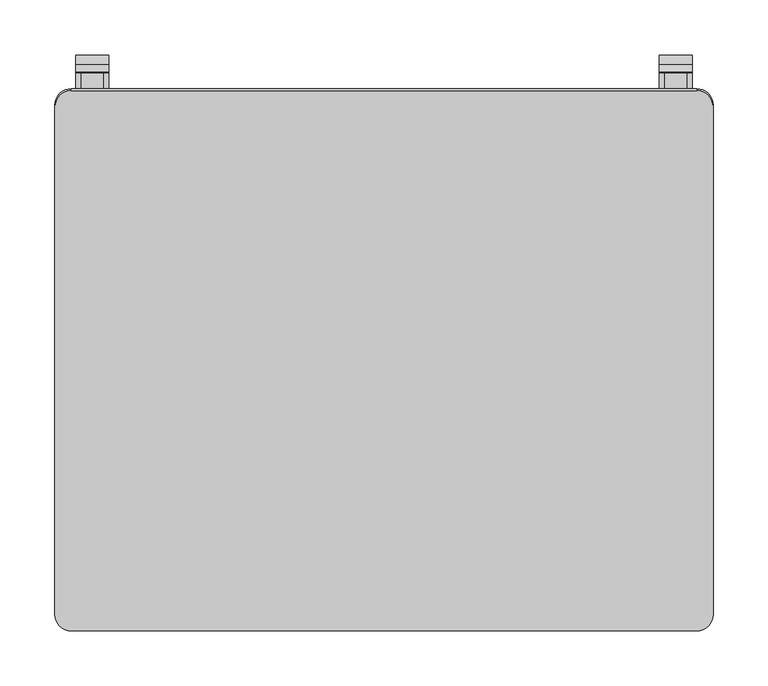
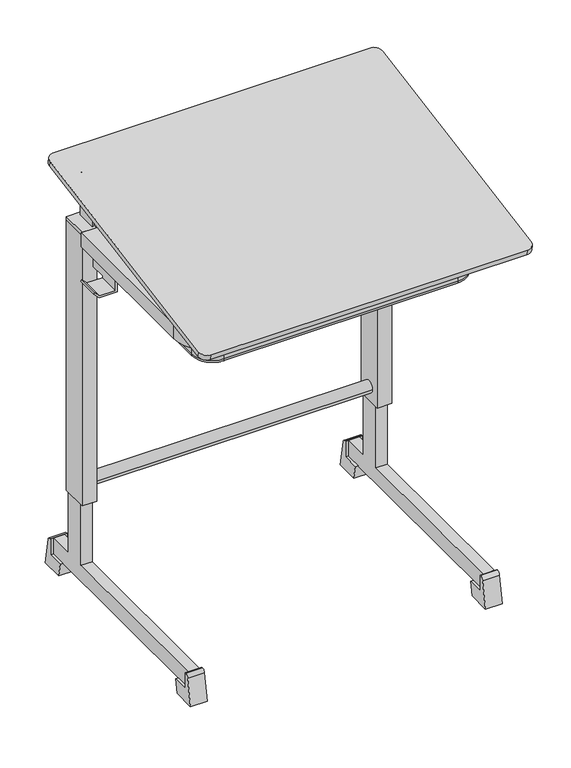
"""IFC4 building model written with IfcOpenShell, lengths in millimetres: furniture geometry, Trivia table : 60 tiltable with drawer."""

import ifcopenshell
import ifcopenshell.guid

model = None  # the IFC model being written
_history = None  # IfcOwnerHistory: only IFC2X3 demands one
_inside = {}  # id of a spatial element -> (the spatial element, [elements in it])
_under = {}  # id of a project, library or spatial element -> (it, [spatial elements below it])
_declared = {}  # id of a project -> (the project, [libraries it declares])
_typed = {}  # id of a type object -> (the type object, [elements of that type])
_made_of = {}  # id of a material, layer set ... -> (it, [elements and type objects made of it])


def new_model(schema):
    """Start an empty IFC model of exactly this schema.

    Asked for "IFC4X3", IfcOpenShell would pick the latest addendum, in which some entities
    have other attributes; the version numbers below select the first issue.
    IFC2X3 requires an IfcOwnerHistory on every rooted entity: one is made here for all.
    """
    global model, _history
    if schema == "IFC4X3":
        model = ifcopenshell.file(schema_version=(4, 3, 0, 0))
    else:
        model = ifcopenshell.file(schema=schema)
    _inside.clear()
    _under.clear()
    _declared.clear()
    _typed.clear()
    _made_of.clear()
    _history = None
    if model.schema == "IFC2X3":
        org = make("IfcOrganization", Name="unknown")
        user = make(
            "IfcPersonAndOrganization",
            ThePerson=make("IfcPerson", FamilyName="unknown"),
            TheOrganization=org,
        )
        app = make(
            "IfcApplication",
            ApplicationDeveloper=org,
            Version="unknown",
            ApplicationFullName="unknown",
            ApplicationIdentifier="unknown",
        )
        _history = make(
            "IfcOwnerHistory",
            OwningUser=user,
            OwningApplication=app,
            ChangeAction="ADDED",
            CreationDate=0,
        )
    return model


def make(cls, **values):
    """One entity of the class cls with the attributes given. An attribute that is None is left unset."""
    return model.create_entity(
        cls, **{name: value for name, value in values.items() if value is not None}
    )


def rooted(cls, **values):
    """An entity with a GlobalId (a new one), such as an element, a storey or a relation."""
    return make(cls, GlobalId=ifcopenshell.guid.new(), OwnerHistory=_history, **values)


def si_unit(unit_type, name, prefix=None):
    """IfcSIUnit, for example si_unit("LENGTHUNIT", "METRE", prefix="MILLI")."""
    return make("IfcSIUnit", UnitType=unit_type, Prefix=prefix, Name=name)


def assignment(units):
    """IfcUnitAssignment: the units of a project."""
    return None if units is None else make("IfcUnitAssignment", Units=units)


def point(xyz):
    """IfcCartesianPoint."""
    return None if xyz is None else make("IfcCartesianPoint", Coordinates=xyz)


def direction(xyz):
    """IfcDirection."""
    return None if xyz is None else make("IfcDirection", DirectionRatios=xyz)


def frame(location, z_axis=None, x_axis=None):
    """IfcAxis2Placement3D, a coordinate frame: its origin and axes. An axis left out is left unset."""
    return make(
        "IfcAxis2Placement3D",
        Location=point(location),
        Axis=direction(z_axis),
        RefDirection=direction(x_axis),
    )


def frame_2d(location, x_axis=None):
    """IfcAxis2Placement2D, a coordinate frame in the plane: its origin and x axis."""
    return make(
        "IfcAxis2Placement2D", Location=point(location), RefDirection=direction(x_axis)
    )


def origin():
    """The frame at (0, 0, 0) with its axes left unset."""
    return frame((0.0, 0.0, 0.0))


def place(relative_to, where):
    """IfcLocalPlacement: puts the frame where relative to a parent placement (None: the world)."""
    return make(
        "IfcLocalPlacement", PlacementRelTo=relative_to, RelativePlacement=where
    )


def context(
    kind, dimensions, precision=None, world=None, true_north=None, identifier=None
):
    """IfcGeometricRepresentationContext, for example the 3D "Model" context."""
    return make(
        "IfcGeometricRepresentationContext",
        ContextIdentifier=identifier,
        ContextType=kind,
        CoordinateSpaceDimension=dimensions,
        Precision=precision,
        WorldCoordinateSystem=world,
        TrueNorth=true_north,
    )


def project(units=None, contexts=None):
    """IfcProject with its units and contexts."""
    return rooted(
        "IfcProject",
        Name="project",
        RepresentationContexts=contexts,
        UnitsInContext=assignment(units),
    )


def spatial(cls, under=None, at=None, **own):
    """A site, building, storey or space (cls), placed at a placement, below another one or the project."""
    s = rooted(cls, ObjectPlacement=at, **own)
    if under is not None:
        _under.setdefault(under.id(), (under, []))[1].append(s)
    return s


def polyline(points):
    """IfcPolyline through the points."""
    return make("IfcPolyline", Points=[point(p) for p in points])


def circle_curve(where, radius):
    """IfcCircle in the frame where."""
    return make("IfcCircle", Position=where, Radius=radius)


def ellipse_curve(where, semi_axis1, semi_axis2):
    """IfcEllipse in the frame where."""
    return make(
        "IfcEllipse", Position=where, SemiAxis1=semi_axis1, SemiAxis2=semi_axis2
    )


def trimmed(basis, trim1, trim2, sense, master):
    """IfcTrimmedCurve: the piece of a basis curve between two trims."""
    return make(
        "IfcTrimmedCurve",
        BasisCurve=basis,
        Trim1=trim1,
        Trim2=trim2,
        SenseAgreement=sense,
        MasterRepresentation=master,
    )


def segment(curve, same_sense, transition):
    """IfcCompositeCurveSegment."""
    return make(
        "IfcCompositeCurveSegment",
        Transition=transition,
        SameSense=same_sense,
        ParentCurve=curve,
    )


def composite_curve(segments, self_intersect=None):
    """IfcCompositeCurve: segments joined end to end."""
    return make("IfcCompositeCurve", Segments=segments, SelfIntersect=self_intersect)


def outline(outer, holes=None, kind="AREA"):
    """IfcArbitraryClosedProfileDef: a profile drawn as a closed curve; with holes, ...WithVoids."""
    if holes is None:
        return make("IfcArbitraryClosedProfileDef", ProfileType=kind, OuterCurve=outer)
    return make(
        "IfcArbitraryProfileDefWithVoids",
        ProfileType=kind,
        OuterCurve=outer,
        InnerCurves=holes,
    )


def extrude(swept, where, along, depth):
    """IfcExtrudedAreaSolid: the profile swept, set in the frame where, extruded along a direction by depth."""
    return make(
        "IfcExtrudedAreaSolid",
        SweptArea=swept,
        Position=where,
        ExtrudedDirection=direction(along),
        Depth=depth,
    )


def faces_of(points, faces, orient=None, outer=None):
    """IfcFace entities. A face is a list of loops; a loop is a list of indices into points, from 0.

    orient and outer hold one flag for each loop. By default every Orientation is true, the
    first loop of a face is its IfcFaceOuterBound and the others are IfcFaceBound.
    """
    made = []
    for i, loops in enumerate(faces):
        bounds = []
        for j, loop in enumerate(loops):
            is_outer = j == 0 if outer is None else outer[i][j]
            bounds.append(
                make(
                    "IfcFaceOuterBound" if is_outer else "IfcFaceBound",
                    Bound=make("IfcPolyLoop", Polygon=[points[k] for k in loop]),
                    Orientation=True if orient is None else orient[i][j],
                )
            )
        made.append(make("IfcFace", Bounds=bounds))
    return made


def faceted_brep(points, faces, orient=None, outer=None, voids=None):
    """IfcFacetedBrep: a solid bounded by flat faces; with voids (closed shells), ...WithVoids."""
    shared = [point(p) for p in points]
    hull = make("IfcClosedShell", CfsFaces=faces_of(shared, faces, orient, outer))
    if voids is None:
        return make("IfcFacetedBrep", Outer=hull)
    return make(
        "IfcFacetedBrepWithVoids",
        Outer=hull,
        Voids=[
            make(cls, CfsFaces=faces_of(shared, fs, o, b)) for cls, fs, o, b in voids
        ],
    )


def shape(context_of_items, identifier, shape_type, items):
    """IfcShapeRepresentation: the items that make up one representation, for example the "Body"."""
    return make(
        "IfcShapeRepresentation",
        ContextOfItems=context_of_items,
        RepresentationIdentifier=identifier,
        RepresentationType=shape_type,
        Items=items,
    )


def source(mapping_origin, context_of_items, identifier, shape_type, items):
    """IfcRepresentationMap: a shape defined once, which mapped items show again and again."""
    return make(
        "IfcRepresentationMap",
        MappingOrigin=mapping_origin,
        MappedRepresentation=shape(context_of_items, identifier, shape_type, items),
    )


def transform(
    local_origin,
    x_axis=None,
    y_axis=None,
    z_axis=None,
    scale=None,
    scale2=None,
    scale3=None,
    uniform=True,
):
    """IfcCartesianTransformationOperator3D, or its non-uniform kind. x_axis, y_axis, z_axis: its Axis1, 2, 3."""
    if uniform:
        return make(
            "IfcCartesianTransformationOperator3D",
            Axis1=direction(x_axis),
            Axis2=direction(y_axis),
            LocalOrigin=point(local_origin),
            Scale=scale,
            Axis3=direction(z_axis),
        )
    return make(
        "IfcCartesianTransformationOperator3DnonUniform",
        Axis1=direction(x_axis),
        Axis2=direction(y_axis),
        LocalOrigin=point(local_origin),
        Scale=scale,
        Axis3=direction(z_axis),
        Scale2=scale2,
        Scale3=scale3,
    )


def mapped(mapping_source, mapping_target):
    """IfcMappedItem: shows the shape of a source again, moved by a transform."""
    return make(
        "IfcMappedItem", MappingSource=mapping_source, MappingTarget=mapping_target
    )


def made_of(thing, what):
    """Note that an element or type object is made of a material, layer set ...; save() writes the relation."""
    if what is not None:
        _made_of.setdefault(what.id(), (what, []))[1].append(thing)
    return thing


def element(
    cls,
    number,
    at=None,
    inside=None,
    cuts=None,
    type_object=None,
    material=None,
    context=None,
    identifier="Body",
    shape_type=None,
    held_by="IfcProductDefinitionShape",
    body=None,
    shapes=None,
    **own,
):
    """One element of the class cls, such as IfcWall. Its Tag is "e" and its number.

    at: its placement. inside: the storey or other place that contains it. cuts: it is an
    opening in that element (IfcRelVoidsElement). A single representation is given by context,
    identifier, shape_type and body (its items); several are given by shapes. held_by: the class
    of the entity that holds the representations. save() writes the other relations.
    """
    e = rooted(cls, Tag="e%d" % number, ObjectPlacement=at, **own)
    if body is not None:
        shapes = [shape(context, identifier, shape_type, body)]
    if shapes is not None:
        e.Representation = make(held_by, Representations=shapes)
    if inside is not None:
        _inside.setdefault(inside.id(), (inside, []))[1].append(e)
    if cuts is not None:
        rooted(
            "IfcRelVoidsElement", RelatingBuildingElement=cuts, RelatedOpeningElement=e
        )
    if type_object is not None:
        _typed.setdefault(type_object.id(), (type_object, []))[1].append(e)
    return made_of(e, material)


def aggregate(whole, parts):
    """IfcRelAggregates: a whole, such as a stair, and the parts it consists of."""
    return rooted("IfcRelAggregates", RelatingObject=whole, RelatedObjects=parts)


def save(model, path):
    """Write the relations noted so far, then the file.

    IfcRelAggregates (storeys below a building ...), IfcRelContainedInSpatialStructure (elements
    in a storey), IfcRelDefinesByType, IfcRelAssociatesMaterial and IfcRelDeclares: one each for
    every whole, place, type object, material and project.
    """
    for whole, parts in _under.values():
        aggregate(whole, parts)
    for where, things in _inside.values():
        rooted(
            "IfcRelContainedInSpatialStructure",
            RelatedElements=things,
            RelatingStructure=where,
        )
    for kind, things in _typed.values():
        rooted("IfcRelDefinesByType", RelatedObjects=things, RelatingType=kind)
    for what, things in _made_of.values():
        rooted("IfcRelAssociatesMaterial", RelatedObjects=things, RelatingMaterial=what)
    for by, libraries in _declared.values():
        rooted("IfcRelDeclares", RelatingContext=by, RelatedDefinitions=libraries)
    model.write(path)


def plane_surface(at):
    """IfcPlane: the flat surface through the origin of the frame at, square to its z axis."""
    return make("IfcPlane", Position=at)


def cylinder_surface(at, radius):
    """IfcCylindricalSurface: all points at the distance radius from the z axis of the frame at."""
    return make("IfcCylindricalSurface", Position=at, Radius=radius)


def revolved_surface(curve, axis_point, axis_direction):
    """IfcSurfaceOfRevolution: the curve turned about the line through axis_point along axis_direction."""
    return make(
        "IfcSurfaceOfRevolution",
        SweptCurve=make("IfcArbitraryOpenProfileDef", ProfileType="CURVE", Curve=curve),
        AxisPosition=make("IfcAxis1Placement", Location=point(axis_point), Axis=direction(axis_direction)),
    )


def advanced_brep(points, edges, surfaces, faces):
    """IfcAdvancedBrep: a solid bounded by faces that lie on surfaces and meet in shared edges.

    An edge is (start, end): straight between two places in points (the first is 0);
    or (start, end, curve); or (start, end, curve, False) where it runs against its curve.
    A face is (place in surfaces, loops), or (place, loops, False) where it looks against
    its surface's normal. A loop lists edges by number (the first is 1), with a minus sign
    where the edge is run from its end to its start. The first loop is the outer one.
    """
    corners = [point(p) for p in points]
    vertices = [make("IfcVertexPoint", VertexGeometry=c) for c in corners]
    made = []
    for start, end, *more in edges:
        made.append(
            make(
                "IfcEdgeCurve",
                EdgeStart=vertices[start],
                EdgeEnd=vertices[end],
                EdgeGeometry=more[0] if more else make("IfcPolyline", Points=[corners[start], corners[end]]),
                SameSense=more[1] if len(more) > 1 else True,
            )
        )
    hull = []
    for where, loops, *sense in faces:
        bounds = []
        for j, loop in enumerate(loops):
            ring = [make("IfcOrientedEdge", EdgeElement=made[abs(k) - 1], Orientation=k > 0) for k in loop]
            bounds.append(
                make(
                    "IfcFaceOuterBound" if j == 0 else "IfcFaceBound",
                    Bound=make("IfcEdgeLoop", EdgeList=ring),
                    Orientation=True,
                )
            )
        hull.append(make("IfcAdvancedFace", Bounds=bounds, FaceSurface=surfaces[where], SameSense=sense[0] if sense else True))
    return make("IfcAdvancedBrep", Outer=make("IfcClosedShell", CfsFaces=hull))


def furniture_adbca7c4(model_context):
    return source(origin(), model_context, "Body", "SolidModel", [
        advanced_brep(
        [(-242.1886902, -120.5095927, 696.521797), (-242.1886902, -120.5095927, 628.2965405), (-242.1886902, 129.6420925, 628.2965405), (-242.1886902, 144.6420925, 628.2965405), (-242.1886902, 144.6420925, 668.000493), (-242.1886902, 176.1657584, 668.000493), (-242.1886902, 176.1657584, 690.521797), (-242.1886902, 176.1657584, 696.521797), (-211.0, -151.6982829, 628.2965405), (211.0, -151.6982829, 628.2965405), (242.1886902, -120.5095927, 628.2965405), (242.1886902, 129.6420925, 628.2965405), (242.1886902, 144.6420925, 628.2965405), (242.1886902, -120.5095927, 622.2965405), (211.0, -151.6982829, 622.2965405), (-211.0, -151.6982829, 622.2965405), (-242.1886902, -120.5095927, 622.2965405), (-242.1886902, 129.6420925, 622.2965405), (-242.1886902, 144.6420925, 622.2965405), (242.1886902, 144.6420925, 622.2965405), (242.1886902, 129.6420925, 622.2965405), (-248.1886902, -120.5095927, 628.2965405), (-248.1886902, 150.6420925, 628.2965405), (-248.1886902, -120.5095927, 690.521797), (-248.1886902, 182.1657584, 690.521797), (-248.1886902, 182.1657584, 668.000493), (-248.1886902, 176.1657584, 662.000493), (-248.1886902, 150.6420925, 662.000493), (275.0, -120.5095927, 690.521797), (211.0, -184.5095927, 690.521797), (-211.0, -184.5095927, 690.521797), (-275.0, -120.5095927, 690.521797), (-275.0, 167.0000173, 690.521797), (-253.0, 167.0000173, 690.521797), (-253.0, 211.0000176, 690.521797), (253.0, 211.0000176, 690.521797), (253.0, 167.0000173, 690.521797), (275.0, 167.0000173, 690.521797), (-211.0, -157.6982829, 690.521797), (211.0, -157.6982829, 690.521797), (248.1886902, -120.5095927, 690.521797), (248.1886902, 182.1657584, 690.521797), (-281.0, -120.5095927, 670.0758066), (-281.0, -120.5095927, 696.521797), (-281.0, 167.0000173, 696.521797), (-281.0, 167.0000173, 670.0758066), (-211.0, -190.5095927, 696.521797), (211.0, -190.5095927, 696.521797), (281.0, -120.5095927, 696.521797), (281.0, 167.0000173, 696.521797), (253.0, 167.0000173, 696.521797), (253.0, 211.0000176, 696.521797), (-253.0, 211.0000176, 696.521797), (-253.0, 167.0000173, 696.521797), (242.1886902, -120.5095927, 696.521797), (211.0, -151.6982829, 696.521797), (-211.0, -151.6982829, 696.521797), (242.1886902, 176.1657584, 696.521797), (-211.0, -157.6982829, 628.2965405), (-211.0, -190.5095927, 670.0758066), (211.0, -157.6982829, 628.2965405), (211.0, -190.5095927, 670.0758066), (248.1886902, -120.5095927, 628.2965405), (281.0, -120.5095927, 670.0758066), (242.1886902, 176.1657584, 690.521797), (242.1886902, 176.1657584, 668.000493), (242.1886902, 144.6420925, 668.000493), (248.1886902, 150.6420925, 628.2965405), (248.1886902, 150.6420925, 662.000493), (248.1886902, 176.1657584, 662.000493), (248.1886902, 182.1657584, 668.000493), (281.0, 167.0000173, 670.0758066), (-242.1886902, 182.1657584, 668.000493), (242.1886902, 182.1657584, 668.000493), (-242.1886902, 176.1657584, 662.000493), (242.1886902, 176.1657584, 662.000493), (-253.0, 217.0000176, 662.000493), (-253.0, 211.0000176, 662.000493), (-253.0, 217.0000176, 690.521797), (253.0, 217.0000176, 690.521797), (253.0, 217.0000176, 662.000493), (253.0, 211.0000176, 662.000493), (-275.0, -120.5095927, 670.0758066), (-275.0, 167.0000173, 670.0758066), (-211.0, -184.5095927, 670.0758066), (211.0, -184.5095927, 670.0758066), (275.0, -120.5095927, 670.0758066), (275.0, 167.0000173, 670.0758066)],
        [
            (0, 1),
            (1, 2),
            (2, 3),
            (3, 4),
            (4, 5),
            (5, 6),
            (6, 7),
            (7, 0),
            (1, 8, circle_curve(frame((-211.0, -120.5095927, 628.2965405), z_axis=(0.0, 0.0, 1.0), x_axis=(-1.0, 0.0, 0.0)), 31.1886902)),
            (8, 9),
            (9, 10, circle_curve(frame((211.0, -120.5095927, 628.2965405), z_axis=(0.0, 0.0, 1.0), x_axis=(0.0, -1.0, 0.0)), 31.1886902)),
            (10, 11),
            (11, 12),
            (12, 3),
            (13, 14, circle_curve(frame((211.0, -120.5095927, 622.2965405), z_axis=(0.0, 0.0, -1.0), x_axis=(0.0, -1.0, 0.0)), 31.1886902)),
            (14, 15),
            (15, 16, circle_curve(frame((-211.0, -120.5095927, 622.2965405), z_axis=(0.0, 0.0, -1.0), x_axis=(-1.0, 0.0, 0.0)), 31.1886902)),
            (16, 17),
            (17, 18),
            (18, 19),
            (19, 20),
            (20, 13),
            (16, 21, circle_curve(frame((-242.1886902, -120.5095927, 628.2965405), z_axis=(0.0, 1.0, 0.0), x_axis=(1.0, 0.0, 0.0)), 6.0)),
            (21, 22),
            (22, 18, ellipse_curve(frame((-242.1886902, 144.6420925, 628.2965405), z_axis=(-0.707106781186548, -0.7071067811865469, 0.0), x_axis=(-0.7071067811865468, 0.7071067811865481, 0.0)), 8.4852814, 6.0)),
            (21, 23),
            (23, 24),
            (24, 25),
            (25, 26, circle_curve(frame((-248.1886902, 176.1657584, 668.000493), z_axis=(-1.0, 0.0, 0.0), x_axis=(0.0, 1.0, 0.0)), 6.0)),
            (26, 27),
            (27, 22),
            (28, 29, circle_curve(frame((211.0, -120.5095927, 690.521797), z_axis=(0.0, 0.0, -1.0), x_axis=(0.0, -1.0, 0.0)), 64.0)),
            (29, 30),
            (30, 31, circle_curve(frame((-211.0, -120.5095927, 690.521797), z_axis=(0.0, 0.0, -1.0), x_axis=(-1.0, 0.0, 0.0)), 64.0)),
            (31, 32),
            (32, 33),
            (33, 34),
            (34, 35),
            (35, 36),
            (36, 37),
            (37, 28),
            (23, 38, circle_curve(frame((-211.0, -120.5095927, 690.521797), z_axis=(0.0, 0.0, 1.0), x_axis=(-1.0, 0.0, 0.0)), 37.1886902)),
            (38, 39),
            (39, 40, circle_curve(frame((211.0, -120.5095927, 690.521797), z_axis=(0.0, 0.0, 1.0), x_axis=(0.0, -1.0, 0.0)), 37.1886902)),
            (40, 41),
            (41, 24),
            (42, 43),
            (43, 44),
            (44, 45),
            (45, 42),
            (43, 46, circle_curve(frame((-211.0, -120.5095927, 696.521797), z_axis=(0.0, 0.0, 1.0), x_axis=(-1.0, 0.0, 0.0)), 70.0)),
            (46, 47),
            (47, 48, circle_curve(frame((211.0, -120.5095927, 696.521797), z_axis=(0.0, 0.0, 1.0), x_axis=(0.0, -1.0, 0.0)), 70.0)),
            (48, 49),
            (49, 50),
            (50, 51),
            (51, 52),
            (52, 53),
            (53, 44),
            (54, 55, circle_curve(frame((211.0, -120.5095927, 696.521797), z_axis=(0.0, 0.0, -1.0), x_axis=(0.0, -1.0, 0.0)), 31.1886902)),
            (55, 56),
            (56, 0, circle_curve(frame((-211.0, -120.5095927, 696.521797), z_axis=(0.0, 0.0, -1.0), x_axis=(-1.0, 0.0, 0.0)), 31.1886902)),
            (7, 57),
            (57, 54),
            (56, 8),
            (15, 58, circle_curve(frame((-211.0, -151.6982829, 628.2965405), z_axis=(-1.0, 0.0, 0.0), x_axis=(0.0, 1.0, 0.0)), 6.0)),
            (58, 21, circle_curve(frame((-211.0, -120.5095927, 628.2965405), z_axis=(0.0, 0.0, -1.0), x_axis=(-1.0, 0.0, 0.0)), 37.1886902)),
            (58, 38),
            (42, 59, circle_curve(frame((-211.0, -120.5095927, 670.0758066), z_axis=(0.0, 0.0, 1.0), x_axis=(-1.0, 0.0, 0.0)), 70.0)),
            (59, 46),
            (55, 9),
            (14, 60, circle_curve(frame((211.0, -151.6982829, 628.2965405), z_axis=(-1.0, 0.0, 0.0), x_axis=(0.0, 1.0, 0.0)), 6.0)),
            (60, 58),
            (60, 39),
            (59, 61),
            (61, 47),
            (54, 10),
            (13, 62, circle_curve(frame((242.1886902, -120.5095927, 628.2965405), z_axis=(0.0, -1.0, 0.0), x_axis=(-1.0, 0.0, 0.0)), 6.0)),
            (62, 60, circle_curve(frame((211.0, -120.5095927, 628.2965405), z_axis=(0.0, 0.0, -1.0), x_axis=(0.0, -1.0, 0.0)), 37.1886902)),
            (62, 40),
            (61, 63, circle_curve(frame((211.0, -120.5095927, 670.0758066), z_axis=(0.0, 0.0, 1.0), x_axis=(0.0, -1.0, 0.0)), 70.0)),
            (63, 48),
            (57, 64),
            (64, 65),
            (65, 66),
            (66, 12),
            (19, 67, ellipse_curve(frame((242.1886902, 144.6420925, 628.2965405), z_axis=(0.7071067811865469, -0.707106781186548, 0.0), x_axis=(-0.7071067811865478, -0.707106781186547, 0.0)), 8.4852814, 6.0)),
            (67, 62),
            (67, 68),
            (68, 69),
            (69, 70, circle_curve(frame((248.1886902, 176.1657584, 668.000493), z_axis=(1.0, 0.0, 0.0), x_axis=(0.0, 1.0, 0.0)), 6.0)),
            (70, 41),
            (63, 71),
            (71, 49),
            (72, 25),
            (70, 73),
            (73, 72),
            (26, 74),
            (74, 75),
            (75, 69),
            (68, 27),
            (67, 22),
            (72, 74, circle_curve(frame((-242.1886902, 176.1657584, 668.000493), z_axis=(-1.0, 0.0, 0.0), x_axis=(0.0, 1.0, 0.0)), 6.0)),
            (75, 73, circle_curve(frame((242.1886902, 176.1657584, 668.000493), z_axis=(1.0, 0.0, 0.0), x_axis=(0.0, 1.0, 0.0)), 6.0)),
            (76, 77),
            (77, 34),
            (33, 53),
            (52, 78, circle_curve(frame((-253.0, 211.0000176, 690.521797), z_axis=(-1.0, 0.0, 0.0), x_axis=(0.0, 1.0, 0.0)), 6.0)),
            (78, 76),
            (79, 80),
            (80, 76),
            (78, 79),
            (5, 65),
            (4, 66),
            (51, 79, circle_curve(frame((253.0, 211.0000176, 690.521797), z_axis=(-1.0, 0.0, 0.0), x_axis=(0.0, 1.0, 0.0)), 6.0)),
            (81, 35),
            (77, 81),
            (80, 81),
            (31, 82),
            (82, 83),
            (83, 32),
            (45, 83),
            (82, 84, circle_curve(frame((-211.0, -120.5095927, 670.0758066), z_axis=(0.0, 0.0, 1.0), x_axis=(-1.0, 0.0, 0.0)), 64.0)),
            (84, 85),
            (85, 86, circle_curve(frame((211.0, -120.5095927, 670.0758066), z_axis=(0.0, 0.0, 1.0), x_axis=(0.0, -1.0, 0.0)), 64.0)),
            (86, 87),
            (87, 71),
            (30, 84),
            (29, 85),
            (28, 86),
            (37, 87),
            (50, 36),
        ],
        [
            plane_surface(frame((-242.1886902, 249.4904073, 696.521797), z_axis=(1.0, 0.0, 0.0), x_axis=(0.0, -1.0, 0.0))),
            plane_surface(frame((-242.1886902, 249.4904073, 628.2965405), z_axis=(0.0, 0.0, 1.0), x_axis=(0.0, -1.0, 0.0))),
            plane_surface(frame((-233.3465399, 249.4904073, 622.2965405), z_axis=(0.0, 0.0, -1.0), x_axis=(0.0, -1.0, 0.0))),
            cylinder_surface(frame((-242.1886902, 249.4904073, 628.2965405), z_axis=(0.0, 1.0, 0.0), x_axis=(1.0, 0.0, 0.0)), 6.0),
            plane_surface(frame((-248.1886902, 249.4904073, 628.2965405), z_axis=(-1.0, 0.0, 0.0), x_axis=(0.0, -1.0, 0.0))),
            plane_surface(frame((-248.1886902, 249.4904073, 690.521797), z_axis=(0.0, 0.0, -1.0), x_axis=(0.0, -1.0, 0.0))),
            plane_surface(frame((-281.0, 249.4904073, 670.0758066), z_axis=(-1.0, 0.0, 0.0), x_axis=(0.0, -1.0, 0.0))),
            plane_surface(frame((-281.0, 249.4904073, 696.521797), z_axis=(0.0, 0.0, 1.0), x_axis=(0.0, -1.0, 0.0))),
            revolved_surface(polyline([(-242.1886902, -120.5095927, 696.521797), (-242.1886902, -120.5095927, 628.2965405)]), (-211.0, -120.5095927, 729.9880943), (0.0, 0.0, 1.0)),
            revolved_surface(trimmed(ellipse_curve(frame((-242.1886902, -120.5095927, 628.2965405), z_axis=(0.0, 1.0, 0.0), x_axis=(1.0, 0.0, 0.0)), 6.0, 6.0), [point((-242.1886902, -120.5095927, 622.2965405))], [point((-248.1886902, -120.5095927, 628.2965405))], True, "CARTESIAN"), (-211.0, -120.5095927, 729.9880943), (0.0, 0.0, 1.0)),
            cylinder_surface(frame((-211.0, -120.5095927, 729.9880943), z_axis=(0.0, 0.0, 1.0), x_axis=(-1.0, 0.0, 0.0)), 37.1886902),
            cylinder_surface(frame((-211.0, -120.5095927, 729.9880943), z_axis=(0.0, 0.0, 1.0), x_axis=(-1.0, 0.0, 0.0)), 70.0),
            plane_surface(frame((-211.0, -151.6982829, 696.521797), z_axis=(0.0, 1.0, 0.0), x_axis=(1.0, 0.0, 0.0))),
            cylinder_surface(frame((-211.0, -151.6982829, 628.2965405), z_axis=(-1.0, 0.0, 0.0), x_axis=(0.0, 1.0, 0.0)), 6.0),
            plane_surface(frame((-211.0, -157.6982829, 628.2965405), z_axis=(0.0, -1.0, 0.0), x_axis=(1.0, 0.0, 0.0))),
            plane_surface(frame((-211.0, -190.5095927, 670.0758066), z_axis=(0.0, -1.0, 0.0), x_axis=(1.0, 0.0, 0.0))),
            revolved_surface(polyline([(211.0, -151.6982829, 696.521797), (211.0, -151.6982829, 628.2965405)]), (211.0, -120.5095927, 729.9880943), (0.0, 0.0, 1.0)),
            revolved_surface(trimmed(ellipse_curve(frame((211.0, -151.6982829, 628.2965405), z_axis=(-1.0, 0.0, 0.0), x_axis=(0.0, 1.0, 0.0)), 6.0, 6.0), [point((211.0, -151.6982829, 622.2965405))], [point((211.0, -157.6982829, 628.2965405))], True, "CARTESIAN"), (211.0, -120.5095927, 729.9880943), (0.0, 0.0, 1.0)),
            cylinder_surface(frame((211.0, -120.5095927, 729.9880943), z_axis=(0.0, 0.0, 1.0), x_axis=(0.0, -1.0, 0.0)), 37.1886902),
            cylinder_surface(frame((211.0, -120.5095927, 729.9880943), z_axis=(0.0, 0.0, 1.0), x_axis=(0.0, -1.0, 0.0)), 70.0),
            plane_surface(frame((242.1886902, -120.5095927, 696.521797), z_axis=(-1.0, 0.0, 0.0), x_axis=(0.0, 1.0, 0.0))),
            cylinder_surface(frame((242.1886902, -120.5095927, 628.2965405), z_axis=(0.0, -1.0, 0.0), x_axis=(-1.0, 0.0, 0.0)), 6.0),
            plane_surface(frame((248.1886902, -120.5095927, 628.2965405), z_axis=(1.0, 0.0, 0.0), x_axis=(0.0, 1.0, 0.0))),
            plane_surface(frame((281.0, -120.5095927, 670.0758066), z_axis=(1.0, 0.0, 0.0), x_axis=(0.0, 1.0, 0.0))),
            plane_surface(frame((300.0, 182.1657584, 696.521797), z_axis=(0.0, 1.0, 0.0), x_axis=(-1.0, 0.0, 0.0))),
            plane_surface(frame((300.0, 176.1657584, 662.000493), z_axis=(0.0, 0.0, -1.0), x_axis=(-1.0, 0.0, 0.0))),
            plane_surface(frame((300.0, 150.6420925, 662.000493), z_axis=(0.0, 1.0, 0.0), x_axis=(-1.0, 0.0, 0.0))),
            cylinder_surface(frame((-300.0, 176.1657584, 668.000493), z_axis=(-1.0, 0.0, 0.0), x_axis=(0.0, 1.0, 0.0)), 6.0),
            cylinder_surface(frame((-300.0, 144.6420925, 628.2965405), z_axis=(-1.0, 0.0, 0.0), x_axis=(0.0, 1.0, 0.0)), 6.0),
            plane_surface(frame((-253.0, 217.0000176, 696.521797), z_axis=(-1.0, 0.0, 0.0), x_axis=(0.0, 0.0, -1.0))),
            plane_surface(frame((253.0, 217.0000176, 662.000493), z_axis=(0.0, 1.0, 0.0), x_axis=(-1.0, 0.0, 0.0))),
            plane_surface(frame((253.0, 176.1657584, 696.521797), z_axis=(0.0, -1.0, 0.0), x_axis=(-1.0, 0.0, 0.0))),
            plane_surface(frame((253.0, 176.1657584, 668.000493), z_axis=(0.0, 0.0, 1.0), x_axis=(-1.0, 0.0, 0.0))),
            plane_surface(frame((253.0, 144.6420925, 668.000493), z_axis=(0.0, -1.0, 0.0), x_axis=(-1.0, 0.0, 0.0))),
            cylinder_surface(frame((-253.0, 176.1657584, 668.000493), z_axis=(1.0, 0.0, 0.0), x_axis=(0.0, 1.0, 0.0)), 6.0),
            cylinder_surface(frame((-253.0, 211.0000176, 690.521797), z_axis=(1.0, 0.0, 0.0), x_axis=(0.0, 1.0, 0.0)), 6.0),
            plane_surface(frame((253.0, 211.0000176, 690.521797), z_axis=(0.0, -1.0, 0.0), x_axis=(-1.0, 0.0, 0.0))),
            plane_surface(frame((253.0, 211.0000176, 662.000493), z_axis=(0.0, 0.0, -1.0), x_axis=(-1.0, 0.0, 0.0))),
            plane_surface(frame((-275.0, 249.4904073, 690.521797), z_axis=(1.0, 0.0, 0.0), x_axis=(0.0, -1.0, 0.0))),
            plane_surface(frame((-275.0, 249.4904073, 670.0758066), z_axis=(0.0, 0.0, -1.0), x_axis=(0.0, -1.0, 0.0))),
            revolved_surface(polyline([(-275.0, -120.5095927, 690.521797), (-275.0, -120.5095927, 670.0758066)]), (-211.0, -120.5095927, 729.9880943), (0.0, 0.0, 1.0)),
            plane_surface(frame((-211.0, -184.5095927, 690.521797), z_axis=(0.0, 1.0, 0.0), x_axis=(1.0, 0.0, 0.0))),
            revolved_surface(polyline([(211.0, -184.50959269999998, 690.521797), (211.0, -184.50959269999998, 670.0758066)]), (211.0, -120.5095927, 729.9880943), (0.0, 0.0, 1.0)),
            plane_surface(frame((275.0, -120.5095927, 690.521797), z_axis=(-1.0, 0.0, 0.0), x_axis=(0.0, 1.0, 0.0))),
            plane_surface(frame((253.0, 167.0000173, 696.521797), z_axis=(1.0, 0.0, 0.0), x_axis=(0.0, 0.0, 1.0))),
            plane_surface(frame((281.0, 167.0000173, 696.521797), z_axis=(0.0, 1.0, 0.0), x_axis=(-1.0, 0.0, 0.0))),
            plane_surface(frame((-281.0, 167.0000173, 622.2965405), z_axis=(0.0, 1.0, 0.0), x_axis=(1.0, 0.0, 0.0))),
        ],
        [
            (0, [[1, 2, 3, 4, 5, 6, 7, 8]]),
            (1, [[9, 10, 11, 12, 13, 14, -3, -2]]),
            (2, [[15, 16, 17, 18, 19, 20, 21, 22]]),
            (3, [[23, 24, 25, -19, -18]]),
            (4, [[26, 27, 28, 29, 30, 31, -24]]),
            (5, [[32, 33, 34, 35, 36, 37, 38, 39, 40, 41], [42, 43, 44, 45, 46, -27]]),
            (6, [[47, 48, 49, 50]]),
            (7, [[51, 52, 53, 54, 55, 56, 57, 58, 59, -48], [60, 61, 62, -8, 63, 64]]),
            (8, [[-1, -62, 65, -9]]),
            (9, [[-17, 66, 67, -23]]),
            (10, [[-26, -67, 68, -42]]),
            (11, [[-47, 69, 70, -51]]),
            (12, [[-10, -65, -61, 71]]),
            (13, [[-16, 72, 73, -66]]),
            (14, [[-43, -68, -73, 74]]),
            (15, [[-52, -70, 75, 76]]),
            (16, [[-11, -71, -60, 77]]),
            (17, [[-15, 78, 79, -72]]),
            (18, [[-44, -74, -79, 80]]),
            (19, [[-53, -76, 81, 82]]),
            (20, [[-77, -64, 83, 84, 85, 86, -13, -12]]),
            (21, [[-78, -22, -21, 87, 88]]),
            (22, [[-80, -88, 89, 90, 91, 92, -45]]),
            (23, [[-82, 93, 94, -54]]),
            (24, [[95, -28, -46, -92, 96, 97]]),
            (25, [[98, 99, 100, -90, 101, -30]]),
            (26, [[-31, -101, -89, 102]]),
            (27, [[-98, -29, -95, 103]]),
            (27, [[-100, 104, -96, -91]]),
            (28, [[-20, -25, -102, -87]]),
            (29, [[105, 106, -37, 107, -58, 108, 109]]),
            (30, [[110, 111, -109, 112]]),
            (31, [[113, -84, -83, -63, -7, -6]]),
            (32, [[-113, -5, 114, -85]]),
            (33, [[-114, -4, -14, -86]]),
            (34, [[-99, -103, -97, -104]]),
            (35, [[115, -112, -108, -57]]),
            (36, [[116, -38, -106, 117]]),
            (37, [[118, -117, -105, -111]]),
            (38, [[119, 120, 121, -35]]),
            (39, [[-69, -50, 122, -120, 123, 124, 125, 126, 127, -93, -81, -75]]),
            (40, [[-34, 128, -123, -119]]),
            (41, [[-33, 129, -124, -128]]),
            (42, [[-32, 130, -125, -129]]),
            (43, [[-130, -41, 131, -126]]),
            (44, [[132, -39, -116, -118, -110, -115, -56]]),
            (45, [[-132, -55, -94, -127, -131, -40]]),
            (46, [[-107, -36, -121, -122, -49, -59]]),
        ],
    ),
        extrude(outline(polyline([(-279.0, 167.0000173), (-279.0, 217.0000176), (-253.0, 217.0000176), (-253.0, 167.0000173), (-279.0, 167.0000173)])), frame((0.0, 0.0, 690.521797), z_axis=(0.0, 0.0, 1.0), x_axis=(1.0, 0.0, 0.0)), (0.0, 0.0, 1.0), 6.0),
        extrude(outline(polyline([(279.0, 217.0000176), (279.0, 167.0000173), (253.0, 167.0000173), (253.0, 217.0000176), (279.0, 217.0000176)])), frame((0.0, 0.0, 690.521797), z_axis=(0.0, 0.0, 1.0), x_axis=(1.0, 0.0, 0.0)), (0.0, 0.0, 1.0), 6.0),
        extrude(outline(composite_curve([segment(polyline([(209.8609292, 696.5337027), (172.337409, 696.5337027), (172.337409, 764.4606409), (202.8945629, 780.9470192)]), True, "CONTINUOUS"), segment(trimmed(circle_curve(frame_2d((206.1065452, 774.9936779)), 6.7645475), [point((202.8945629, 780.9470192))], [point((212.6701567, 773.3571858))], False, "CARTESIAN"), True, "CONTINUOUS"), segment(polyline([(212.6701567, 773.3571858), (209.8609292, 762.0899894), (209.8609292, 696.5337027)]), True, "CONTINUOUS")], self_intersect=False), holes=[composite_curve([segment(trimmed(circle_curve(frame_2d((206.4529115, 775.5845406)), 3.0), [point((203.4529115, 775.5845406))], [point((209.4529115, 775.5845406))], True, "CARTESIAN"), True, "CONTINUOUS"), segment(trimmed(circle_curve(frame_2d((206.4529115, 775.5845406)), 3.0), [point((209.4529115, 775.5845406))], [point((203.4529115, 775.5845406))], True, "CARTESIAN"), True, "CONTINUOUS")], self_intersect=False)]), frame((-258.0, 0.0, 0.0), z_axis=(1.0, 0.0, 0.0), x_axis=(0.0, 1.0, 0.0)), (0.0, 0.0, 1.0), 3.0),
        extrude(outline(composite_curve([segment(polyline([(209.8609292, 696.5337027), (172.337409, 696.5337027), (172.337409, 764.4606409), (202.8945629, 780.9470192)]), True, "CONTINUOUS"), segment(trimmed(circle_curve(frame_2d((206.1065452, 774.9936779)), 6.7645475), [point((202.8945629, 780.9470192))], [point((212.6701567, 773.3571858))], False, "CARTESIAN"), True, "CONTINUOUS"), segment(polyline([(212.6701567, 773.3571858), (209.8609292, 762.0899894), (209.8609292, 696.5337027)]), True, "CONTINUOUS")], self_intersect=False), holes=[composite_curve([segment(trimmed(circle_curve(frame_2d((206.4529115, 775.5845406)), 3.0), [point((203.4529115, 775.5845406))], [point((209.4529115, 775.5845406))], True, "CARTESIAN"), True, "CONTINUOUS"), segment(trimmed(circle_curve(frame_2d((206.4529115, 775.5845406)), 3.0), [point((209.4529115, 775.5845406))], [point((203.4529115, 775.5845406))], True, "CARTESIAN"), True, "CONTINUOUS")], self_intersect=False)]), frame((255.0, 0.0, 0.0), z_axis=(1.0, 0.0, 0.0), x_axis=(0.0, 1.0, 0.0)), (0.0, 0.0, 1.0), 3.0),
        extrude(outline(polyline([(0.0, -50.1182647), (0.0, 0.0), (28.0, 0.0), (28.0, -50.1182647), (0.0, -50.1182647)])), frame((-280.0, 203.7416087, 782.5941187), z_axis=(0.0, -0.1736481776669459, 0.9848077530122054), x_axis=(1.0, 0.0, 0.0)), (0.0, 0.0, 1.0), 2.5978465),
        extrude(outline(composite_curve([segment(trimmed(circle_curve(frame_2d((206.4529115, 775.5845406)), 9.7445512), [point((204.760788, 785.1810501))], [point((204.1825075, 766.108173))], False, "CARTESIAN"), True, "CONTINUOUS"), segment(polyline([(204.1825075, 766.108173), (171.5752359, 776.9223193), (171.1635766, 779.2569553), (204.760788, 785.1810501)]), True, "CONTINUOUS")], self_intersect=False)), frame((-255.0, 0.0, 0.0), z_axis=(1.0, 0.0, 0.0), x_axis=(0.0, 1.0, 0.0)), (0.0, 0.0, 1.0), 3.0),
        extrude(outline(polyline([(0.0, -50.1182647), (0.0, 0.0), (28.0, 0.0), (28.0, -50.1182647), (0.0, -50.1182647)])), frame((280.0, 154.384753, 773.8911734), z_axis=(0.0, -0.1736481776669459, 0.9848077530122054), x_axis=(-1.0, 0.0, 0.0)), (0.0, 0.0, 1.0), 2.5978465),
        extrude(outline(composite_curve([segment(trimmed(circle_curve(frame_2d((206.4529115, 775.5845406)), 9.7445512), [point((204.760788, 785.1810501))], [point((204.1825075, 766.108173))], False, "CARTESIAN"), True, "CONTINUOUS"), segment(polyline([(204.1825075, 766.108173), (171.5752359, 776.9223193), (171.1635766, 779.2569553), (204.760788, 785.1810501)]), True, "CONTINUOUS")], self_intersect=False)), frame((252.0, 0.0, 0.0), z_axis=(1.0, 0.0, 0.0), x_axis=(0.0, 1.0, 0.0)), (0.0, 0.0, 1.0), 3.0),
        extrude(outline(composite_curve([segment(trimmed(circle_curve(frame_2d((0.0, -8.0)), 8.0), [point((0.0, -16.0))], [point((0.0, 0.0))], False, "CARTESIAN"), True, "CONTINUOUS"), segment(trimmed(circle_curve(frame_2d((0.0, -8.0)), 8.0), [point((0.0, 0.0))], [point((0.0, -16.0))], False, "CARTESIAN"), True, "CONTINUOUS")], self_intersect=False)), frame((-115.5, -162.1328007, 696.8902084), z_axis=(0.0, -0.17364817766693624, 0.984807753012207), x_axis=(0.0, -0.984807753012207, -0.17364817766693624)), (0.0, 0.0, 1.0), 23.4662973),
        extrude(outline(composite_curve([segment(trimmed(circle_curve(frame_2d((0.0, 239.0)), 8.0), [point((0.0, 231.0))], [point((0.0, 247.0))], False, "CARTESIAN"), True, "CONTINUOUS"), segment(trimmed(circle_curve(frame_2d((0.0, 239.0)), 8.0), [point((0.0, 247.0))], [point((0.0, 231.0))], False, "CARTESIAN"), True, "CONTINUOUS")], self_intersect=False)), frame((-115.5, -162.1328007, 696.8902084), z_axis=(0.0, -0.17364817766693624, 0.984807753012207), x_axis=(0.0, -0.984807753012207, -0.17364817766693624)), (0.0, 0.0, 1.0), 23.4662973),
        extrude(outline(composite_curve([segment(polyline([(15.0, -15.0), (15.0, -585.0)]), True, "CONTINUOUS"), segment(trimmed(circle_curve(frame_2d((0.0, -585.0)), 15.0), [point((15.0, -585.0))], [point((0.0, -600.0))], False, "CARTESIAN"), True, "CONTINUOUS"), segment(polyline([(0.0, -600.0), (-470.0, -600.0)]), True, "CONTINUOUS"), segment(trimmed(circle_curve(frame_2d((-470.0, -585.0)), 15.0), [point((-470.0, -600.0))], [point((-485.0, -585.0))], False, "CARTESIAN"), True, "CONTINUOUS"), segment(polyline([(-485.0, -585.0), (-485.0, -15.0)]), True, "CONTINUOUS"), segment(trimmed(circle_curve(frame_2d((-470.0, -15.0)), 15.0), [point((-485.0, -15.0))], [point((-470.0, 0.0))], False, "CARTESIAN"), True, "CONTINUOUS"), segment(polyline([(-470.0, 0.0), (0.0, 0.0)]), True, "CONTINUOUS"), segment(trimmed(circle_curve(frame_2d((0.0, -15.0)), 15.0), [point((0.0, 0.0))], [point((15.0, -15.0))], False, "CARTESIAN"), True, "CONTINUOUS")], self_intersect=False)), frame((300.0, -230.0249139, 708.7472999), z_axis=(0.0, -0.17364817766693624, 0.984807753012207), x_axis=(0.0, -0.984807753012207, -0.17364817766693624)), (0.0, 0.0, 1.0), 10.0),
        extrude(outline(polyline([(279.0, 217.0000176), (279.0, 167.0000173), (253.0, 167.0000173), (253.0, 217.0000176), (279.0, 217.0000176)])), frame((0.0, 0.0, 690.0), z_axis=(0.0, 0.0, 1.0), x_axis=(1.0, 0.0, 0.0)), (0.0, 0.0, 1.0), 6.5337027),
        extrude(outline(polyline([(-279.0, 167.0000173), (-279.0, 217.0000176), (-253.0, 217.0000176), (-253.0, 167.0000173), (-279.0, 167.0000173)])), frame((0.0, 0.0, 690.0), z_axis=(0.0, 0.0, 1.0), x_axis=(1.0, 0.0, 0.0)), (0.0, 0.0, 1.0), 6.5337027),
        faceted_brep([(-256.0, 167.0000173, 669.978232), (-256.0, 167.0000173, 624.071059), (-259.0, 167.0000173, 624.071059), (-259.0, 167.0000173, 669.978232), (-256.0, 138.1962488, 624.071059), (-259.0, 138.1962488, 624.071059), (-256.0, 97.8407812, 617.478232), (-256.0, 97.8407812, 669.978232), (-259.0, 97.8407812, 669.978232), (-259.0, 97.8407812, 620.478232), (-287.2573593, 97.8407812, 620.478232), (-296.274477, 97.8407812, 629.4953497), (-298.3957973, 97.8407812, 627.3740293), (-288.5, 97.8407812, 617.478232), (-256.0, 138.1962488, 617.478232), (-288.5, 138.1962488, 617.478232), (-298.3957973, 138.1962488, 627.3740293), (-296.274477, 138.1962488, 629.4953497), (-287.2573593, 138.1962488, 620.478232), (-259.0, 138.1962488, 620.478232)], [[[0, 1, 2, 3]], [[2, 1, 4, 5]], [[6, 7, 8, 9, 10, 11, 12, 13]], [[14, 15, 16, 17, 18, 19, 5, 4]], [[10, 9, 19, 18]], [[11, 10, 18, 17]], [[12, 11, 17, 16]], [[13, 12, 16, 15]], [[6, 13, 15, 14]], [[9, 8, 3, 2, 5, 19]], [[7, 6, 14, 4, 1, 0]], [[8, 7, 0, 3]]]),
        faceted_brep([(256.0, 167.0000173, 669.978232), (259.0, 167.0000173, 669.978232), (259.0, 167.0000173, 624.071059), (256.0, 167.0000173, 624.071059), (259.0, 97.8407812, 669.978232), (259.0, 97.8407812, 620.478232), (259.0, 138.1962488, 620.478232), (259.0, 138.1962488, 624.071059), (256.0, 138.1962488, 624.071059), (256.0, 138.1962488, 617.478232), (256.0, 97.8407812, 617.478232), (256.0, 97.8407812, 669.978232), (288.5, 97.8407812, 617.478232), (298.3957973, 97.8407812, 627.3740293), (296.274477, 97.8407812, 629.4953497), (287.2573593, 97.8407812, 620.478232), (287.2573593, 138.1962488, 620.478232), (296.274477, 138.1962488, 629.4953497), (298.3957973, 138.1962488, 627.3740293), (288.5, 138.1962488, 617.478232)], [[[0, 1, 2, 3]], [[2, 1, 4, 5, 6, 7]], [[3, 2, 7, 8]], [[0, 3, 8, 9, 10, 11]], [[10, 12, 13, 14, 15, 5, 4, 11]], [[6, 16, 17, 18, 19, 9, 8, 7]], [[5, 15, 16, 6]], [[15, 14, 17, 16]], [[14, 13, 18, 17]], [[13, 12, 19, 18]], [[12, 10, 9, 19]], [[1, 0, 11, 4]]]),
        extrude(outline(polyline([(-279.0, 167.0000173), (-279.0, 217.0000176), (-253.0, 217.0000176), (-253.0, 167.0000173), (-279.0, 167.0000173)])), frame((0.0, 0.0, 175.0), z_axis=(0.0, 0.0, 1.0), x_axis=(1.0, 0.0, 0.0)), (0.0, 0.0, 1.0), 515.000029),
        extrude(outline(polyline([(279.0, 217.0000176), (279.0, 167.0000173), (253.0, 167.0000173), (253.0, 217.0000176), (279.0, 217.0000176)])), frame((0.0, 0.0, 175.0), z_axis=(0.0, 0.0, 1.0), x_axis=(1.0, 0.0, 0.0)), (0.0, 0.0, 1.0), 515.000029),
        extrude(outline(composite_curve([segment(polyline([(236.4808233, 0.0), (232.2713678, 25.0000002), (262.3523545, 25.0000002), (262.3523545, 54.9999995), (263.3217876, 54.9999995)]), True, "CONTINUOUS"), segment(trimmed(circle_curve(frame_2d((263.3217876, 48.0256071)), 6.9743924), [point((263.3217876, 54.9999995))], [point((270.1993675, 49.1836417))], False, "CARTESIAN"), True, "CONTINUOUS"), segment(polyline([(270.1993675, 49.1836417), (278.4808214, 0.0), (236.4808233, 0.0)]), True, "CONTINUOUS")], self_intersect=False)), frame((-281.0, 0.0, 0.0), z_axis=(1.0, 0.0, 0.0), x_axis=(0.0, 1.0, 0.0)), (0.0, 0.0, 1.0), 30.0),
        extrude(outline(composite_curve([segment(polyline([(-132.5791756, 0.0), (-174.5791737, 0.0), (-166.2977198, 49.1836417)]), True, "CONTINUOUS"), segment(trimmed(circle_curve(frame_2d((-159.4201399, 48.0256071)), 6.9743924), [point((-166.2977198, 49.1836417))], [point((-159.4201399, 54.9999995))], False, "CARTESIAN"), True, "CONTINUOUS"), segment(polyline([(-159.4201399, 54.9999995), (-158.4507069, 54.9999995), (-158.4507069, 25.0000002), (-128.3697201, 25.0000002), (-132.5791756, 0.0)]), True, "CONTINUOUS")], self_intersect=False)), frame((-281.0, 0.0, 0.0), z_axis=(1.0, 0.0, 0.0), x_axis=(0.0, 1.0, 0.0)), (0.0, 0.0, 1.0), 30.0),
        extrude(outline(polyline([(215.2376978, 54.9999995), (262.3523545, 54.9999995), (262.3523545, 25.0000002), (-158.4507069, 25.0000002), (-158.4507069, 54.9999995), (176.2500158, 54.9999995), (176.2500158, 175.0), (215.2376978, 175.0), (215.2376978, 54.9999995)])), frame((-276.0, 0.0, 0.0), z_axis=(1.0, 0.0, 0.0), x_axis=(0.0, 1.0, 0.0)), (0.0, 0.0, 1.0), 20.0),
        extrude(outline(composite_curve([segment(polyline([(236.4808233, 0.0), (232.2713678, 25.0000002), (262.3523545, 25.0000002), (262.3523545, 54.9999995), (263.3217876, 54.9999995)]), True, "CONTINUOUS"), segment(trimmed(circle_curve(frame_2d((263.3217876, 48.0256071)), 6.9743924), [point((263.3217876, 54.9999995))], [point((270.1993675, 49.1836417))], False, "CARTESIAN"), True, "CONTINUOUS"), segment(polyline([(270.1993675, 49.1836417), (278.4808214, 0.0), (236.4808233, 0.0)]), True, "CONTINUOUS")], self_intersect=False)), frame((251.0, 0.0, 0.0), z_axis=(1.0, 0.0, 0.0), x_axis=(0.0, 1.0, 0.0)), (0.0, 0.0, 1.0), 30.0),
        extrude(outline(composite_curve([segment(polyline([(-132.5791756, 0.0), (-174.5791737, 0.0), (-166.2977198, 49.1836417)]), True, "CONTINUOUS"), segment(trimmed(circle_curve(frame_2d((-159.4201399, 48.0256071)), 6.9743924), [point((-166.2977198, 49.1836417))], [point((-159.4201399, 54.9999995))], False, "CARTESIAN"), True, "CONTINUOUS"), segment(polyline([(-159.4201399, 54.9999995), (-158.4507069, 54.9999995), (-158.4507069, 25.0000002), (-128.3697201, 25.0000002), (-132.5791756, 0.0)]), True, "CONTINUOUS")], self_intersect=False)), frame((251.0, 0.0, 0.0), z_axis=(1.0, 0.0, 0.0), x_axis=(0.0, 1.0, 0.0)), (0.0, 0.0, 1.0), 30.0),
        extrude(outline(polyline([(215.2376978, 54.9999995), (262.3523545, 54.9999995), (262.3523545, 25.0000002), (-158.4507069, 25.0000002), (-158.4507069, 54.9999995), (176.2500158, 54.9999995), (176.2500158, 175.0), (215.2376978, 175.0), (215.2376978, 54.9999995)])), frame((256.0, 0.0, 0.0), z_axis=(1.0, 0.0, 0.0), x_axis=(0.0, 1.0, 0.0)), (0.0, 0.0, 1.0), 20.0),
        extrude(outline(composite_curve([segment(trimmed(circle_curve(frame_2d((211.0, -117.0000068)), 45.0), [point((211.0, -162.0000068))], [point((256.0, -117.0000068))], True, "CARTESIAN"), True, "CONTINUOUS"), segment(polyline([(256.0, -117.0000068), (256.0, 167.0000173), (276.0, 167.0000173), (276.0, -117.0000067)]), True, "CONTINUOUS"), segment(trimmed(circle_curve(frame_2d((211.0, -117.0000068)), 65.0), [point((276.0, -117.0000067))], [point((211.0, -182.0000068))], False, "CARTESIAN"), True, "CONTINUOUS"), segment(polyline([(211.0, -182.0000068), (-211.0, -182.0000067)]), True, "CONTINUOUS"), segment(trimmed(circle_curve(frame_2d((-211.0, -117.0000068)), 65.0), [point((-211.0, -182.0000067))], [point((-276.0, -117.0000068))], False, "CARTESIAN"), True, "CONTINUOUS"), segment(polyline([(-276.0, -117.0000068), (-276.0, 167.0000173), (-256.0, 167.0000173), (-256.0, -117.0000068)]), True, "CONTINUOUS"), segment(trimmed(circle_curve(frame_2d((-211.0, -117.0000068)), 45.0), [point((-256.0, -117.0000068))], [point((-211.0, -162.0000068))], True, "CARTESIAN"), True, "CONTINUOUS"), segment(polyline([(-211.0, -162.0000068), (211.0, -162.0000068)]), True, "CONTINUOUS")], self_intersect=False)), frame((0.0, 0.0, 669.978232), z_axis=(0.0, 0.0, 1.0), x_axis=(1.0, 0.0, 0.0)), (0.0, 0.0, 1.0), 20.0094431),
        extrude(outline(composite_curve([segment(trimmed(circle_curve(frame_2d((192.0000175, 202.0000098)), 11.0), [point((181.0000175, 202.0000098))], [point((203.0000175, 202.0000098))], False, "CARTESIAN"), True, "CONTINUOUS"), segment(trimmed(circle_curve(frame_2d((192.0000175, 202.0000098)), 11.0), [point((203.0000175, 202.0000098))], [point((181.0000175, 202.0000098))], False, "CARTESIAN"), True, "CONTINUOUS")], self_intersect=False)), frame((-253.0, 0.0, 0.0), z_axis=(1.0, 0.0, 0.0), x_axis=(0.0, 1.0, 0.0)), (0.0, 0.0, 1.0), 506.0),
        extrude(outline(polyline([(253.0, 209.9876913), (253.0, 190.0123117), (-253.0, 190.0123117), (-253.0, 209.9876913), (253.0, 209.9876913)])), frame((0.0, 0.0, 660.0123245), z_axis=(0.0, 0.0, 1.0), x_axis=(1.0, 0.0, 0.0)), (0.0, 0.0, 1.0), 29.9753506),
    ])


if __name__ == "__main__":
    model = new_model("IFC4")
    model_context = context("Model", 3, world=origin())
    ifc_project = project(units=[si_unit("LENGTHUNIT", "METRE", prefix="MILLI")], contexts=[model_context])
    site = spatial("IfcSite", under=ifc_project)
    building = spatial("IfcBuilding", under=site)
    placement = place(None, origin())
    furniture_shape = furniture_adbca7c4(model_context)
    element("IfcFurniture", 1, ObjectType="Trivia table : 60 tiltable with drawer", at=placement, inside=building, context=model_context, shape_type="MappedRepresentation", body=[
        mapped(furniture_shape, transform((0.0, 0.0, 0.0), x_axis=(1.0, 0.0, 0.0), y_axis=(0.0, 1.0, 0.0), z_axis=(0.0, 0.0, 1.0))),
    ])
    save(model, "model.ifc")
